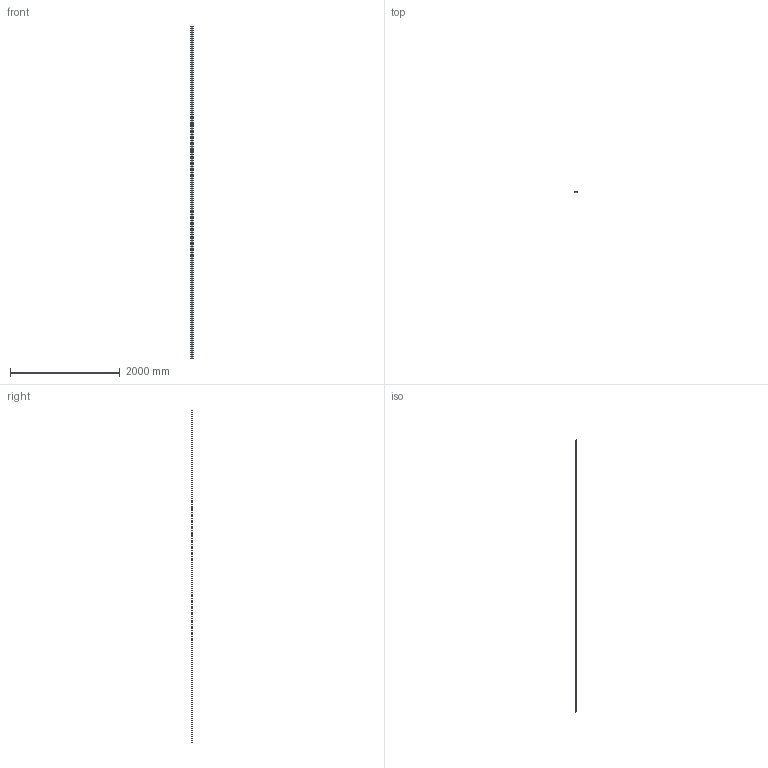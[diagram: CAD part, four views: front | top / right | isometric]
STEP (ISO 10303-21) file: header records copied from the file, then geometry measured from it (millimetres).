
FILE_DESCRIPTION (( 'STEP AP203' ), '1' );
FILE_NAME ('20200600_Profil 5 10x40.step', '2022-06-15T06:41:07', ( '' ), ( '' ), 'SwSTEP 2.0', 'SolidWorks 2021', '' );
FILE_SCHEMA (( 'CONFIG_CONTROL_DESIGN' ));
Length unit declared in the file: millimetre
Products named in the file (1): 20200600_Profil 5 10x40
Bounding box: 40 x 10 x 6060 mm (x, y, z)
Volume: 1450814 mm3; surface area: 1116777.2 mm2
Topology: 1 solids, 1 shells, 58 faces, 168 edges, 112 vertices
Faces by surface type: cylinder 32, plane 26
Entity records: 2025 total; most frequent: DIRECTION 350, CARTESIAN_POINT 339, ORIENTED_EDGE 336, EDGE_CURVE 168, AXIS2_PLACEMENT_3D 123, VERTEX_POINT 112, VECTOR 104, LINE 104
